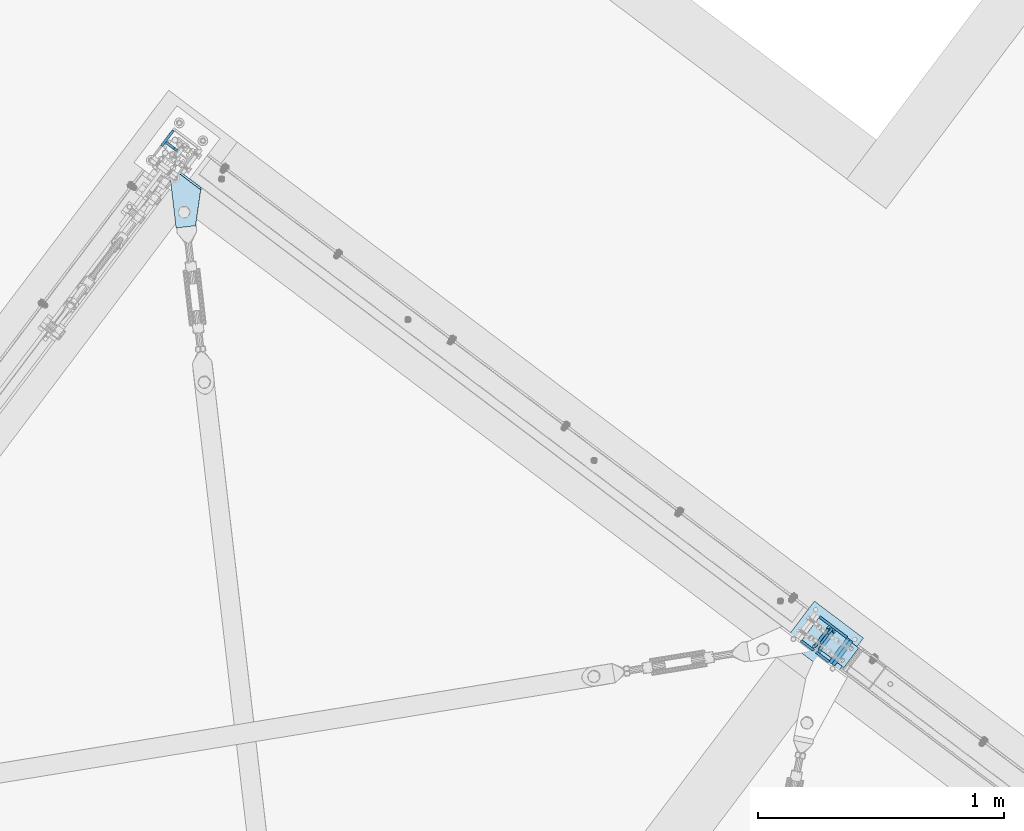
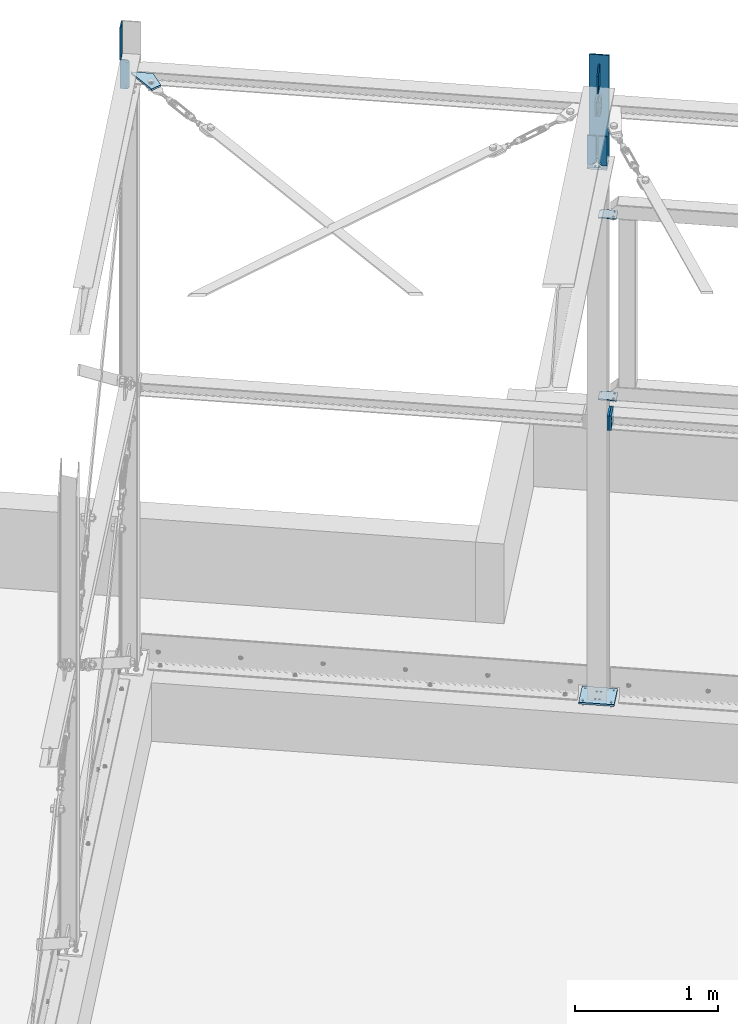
# One storey, part 71 of 476: 15 plates, 57 openings.
"""IFC2X3 building model written with IfcOpenShell, lengths in millimetres."""

from ifc_helpers import new_model, entity, si_unit, converted_unit, point, frame, frame_2d, origin, origin_with_axes, origin_2d_with_axis, place, context, project, spatial, polyline, circle_curve, line_curve, trimmed, segment, composite_curve, circle, outline, extrude, material, layer, layer_set, element, save


model = new_model("IFC2X3")

# Units and contexts
model_context = context("Model", 3, precision=1e-09, world=origin_with_axes())
ifc_project = project(units=[si_unit("LENGTHUNIT", "METRE", prefix="MILLI"), si_unit("AREAUNIT", "SQUARE_METRE"), si_unit("VOLUMEUNIT", "CUBIC_METRE"), converted_unit("PLANEANGLEUNIT", "DEGREE", entity("IfcPlaneAngleMeasure", 0.01745329), si_unit("PLANEANGLEUNIT", "RADIAN"), dimensions=[0, 0, 0, 0, 0, 0, 0])], contexts=[model_context])

# Site, building, storey
site_placement = place(None, origin_with_axes())
site = spatial("IfcSite", under=ifc_project, at=site_placement, Name="mKR Teilneubau & Sanierung BA1 - Ostfildern", CompositionType="ELEMENT")
building_placement = place(site_placement, origin_with_axes())
building = spatial("IfcBuilding", under=site, at=building_placement, Name="Struktur 1", CompositionType="ELEMENT")
storey_placement = place(building_placement, origin_with_axes())
storey = spatial("IfcBuildingStorey", under=building, at=storey_placement, Name="Default Storey", CompositionType="ELEMENT", Elevation=0.0)

# Plate, openings
ifc_material = material(Name="S235JR")
ifc_layer_1 = layer(ifc_material, 15.0)
ifc_layer_set_1 = layer_set([ifc_layer_1], Name="S235JR")
plate_1_placement = place(None, frame((8540.695136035, 10985.191363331, 5627.058533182), z_axis=(-0.018098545, -0.02396011, 0.999549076), x_axis=(-0.602462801, -0.797581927, -0.030027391)))
plate_1 = element("IfcPlate", 1, at=plate_1_placement, inside=storey, material=ifc_layer_set_1, Name="-", ObjectType="-", context=model_context, shape_type="SweptSolid", body=[
    extrude(outline(polyline([(0.0, 0.0), (16.761939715, 0.0), (192.636873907, 167.974256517), (137.382787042, 225.827096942), (1.572e-05, 149.999963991), (0.0, 0.0)])), origin_with_axes(), (0.0, 0.0, -1.0), 15.0),
])
opening_1_placement = place(plate_1_placement, frame((0.0, -0.000999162, 0.0), z_axis=(1.05e-07, 1.0, 0.0), x_axis=(1.0, -1.05e-07, 0.0)))
element("IfcOpeningElement", 2, at=opening_1_placement, cuts=plate_1, ObjectType="Opening", context=model_context, shape_type="SweptSolid", body=[
    extrude(outline(polyline([(0.0, 0.0), (8.0, 0.0), (0.0, 8.0), (0.0, 0.0)])), origin(), (0.0, 0.0, 1.0), 154.437489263),
])
opening_2_placement = place(plate_1_placement, frame((121.62025065, 155.460173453, -15.499862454), z_axis=(-7.613e-06, -7.271e-06, 1.0), x_axis=(-0.723163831, -0.690676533, -1.0527e-05)))
element("IfcOpeningElement", 3, at=opening_2_placement, cuts=plate_1, ObjectType="Opening", context=model_context, shape_type="SweptSolid", body=[
    extrude(circle(Radius=14.501, at=origin_2d_with_axis()), origin(), (0.0, 0.0, 1.0), 16.000000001),
])

ifc_layer_2 = layer(ifc_material, 10.0)
ifc_layer_set_2 = layer_set([ifc_layer_2], Name="S235JR")
plate_2_placement = place(None, frame((11185.904342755, 9034.953563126, 5888.279672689), z_axis=(-0.797941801, 0.602734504, 0.0), x_axis=(0.602734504, 0.797941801, 0.0)))
plate_2 = element("IfcPlate", 4, at=plate_2_placement, inside=storey, material=ifc_layer_set_2, Name="-", ObjectType="-", context=model_context, shape_type="SweptSolid", body=[
    extrude(outline(polyline([(0.0, 0.0), (80.0, 0.0), (80.0, 197.595559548), (0.0, 200.0), (0.0, 0.0)])), origin_with_axes(), (0.0, 0.0, 1.0), 10.0),
])
opening_3_placement = place(plate_2_placement, frame((0.0, 0.0, -0.01), z_axis=(0.0, 0.0, 1.0), x_axis=(1.0, 0.0, 0.0)))
element("IfcOpeningElement", 5, at=opening_3_placement, cuts=plate_2, ObjectType="Opening", context=model_context, shape_type="SweptSolid", body=[
    extrude(outline(polyline([(0.0, 0.0), (50.0, 0.0), (0.0, 50.0), (0.0, 0.0)])), origin(), (0.0, 0.0, 1.0), 10.02),
])
opening_4_placement = place(plate_2_placement, frame((0.0, 0.0, -0.01), z_axis=(0.0, 0.0, 1.0), x_axis=(1.0, 0.0, 0.0)))
element("IfcOpeningElement", 6, at=opening_4_placement, cuts=plate_2, ObjectType="Opening", context=model_context, shape_type="SweptSolid", body=[
    extrude(outline(polyline([(80.0, 197.595559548), (60.009027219, 198.196398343), (80.0, 177.595559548), (80.0, 197.595559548)])), origin(), (0.0, 0.0, 1.0), 10.02),
])

# Plate, opening
plate_3_placement = place(None, frame((8503.621791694, 11061.044014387, 5888.279613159), z_axis=(-0.797941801, 0.602734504, 0.0), x_axis=(0.602734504, 0.797941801, 0.0)))
plate_3 = element("IfcPlate", 7, at=plate_3_placement, inside=storey, material=ifc_layer_set_2, Name="-", ObjectType="-", context=model_context, shape_type="SweptSolid", body=[
    extrude(outline(polyline([(0.0, -77.431397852), (80.0, -77.431397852), (80.0, 197.595559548), (0.0, 200.0), (0.0, -77.431397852)])), origin_with_axes(), (0.0, 0.0, 1.0), 10.0),
])
opening_5_placement = place(plate_3_placement, frame((0.0, 0.0, -0.01), z_axis=(0.0, 0.0, 1.0), x_axis=(1.0, 0.0, 0.0)))
element("IfcOpeningElement", 8, at=opening_5_placement, cuts=plate_3, ObjectType="Opening", context=model_context, shape_type="SweptSolid", body=[
    extrude(outline(polyline([(80.0, 197.595559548), (60.009027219, 198.196398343), (80.0, 177.595559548), (80.0, 197.595559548)])), origin(), (0.0, 0.0, 1.0), 10.02),
])

# Plate, openings
plate_4_placement = place(None, frame((11340.847606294, 9018.1749707, 3100.0), z_axis=(0.0, 0.0, 1.0), x_axis=(-0.797941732, 0.602734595, 0.0)))
plate_4 = element("IfcPlate", 9, at=plate_4_placement, inside=storey, material=ifc_layer_set_2, Name="-", ObjectType="-", context=model_context, shape_type="SweptSolid", body=[
    extrude(outline(polyline([(5.0, 0.0), (135.0, 0.0), (135.0, 100.0), (5.0, 100.0), (5.0, 0.0)])), origin_with_axes(), (0.0, 0.0, -1.0), 10.0),
])
opening_6_placement = place(plate_4_placement, frame((135.0, 0.0, 0.01), z_axis=(0.0, 0.0, 1.0), x_axis=(0.0, 1.0, 0.0)))
element("IfcOpeningElement", 10, at=opening_6_placement, cuts=plate_4, ObjectType="Opening", context=model_context, shape_type="SweptSolid", body=[
    extrude(outline(composite_curve([segment(trimmed(line_curve((0.0, 0.0), (1.0, 0.0), 13.0), [point((0.0, 0.0))], [point((13.0, 0.0))], True, "CARTESIAN"), True, "CONTINUOUS"), segment(trimmed(circle_curve(frame_2d((13.0, 13.0), x_axis=(-1.0, 0.0)), 13.0), [point((13.0, 0.0))], [point((0.0, 13.0))], False, "CARTESIAN"), True, "CONTINUOUS"), segment(trimmed(line_curve((0.0, 13.0), (0.0, -1.0), 13.0), [point((0.0, 13.0))], [point((0.0, 0.0))], True, "CARTESIAN"), True, "CONTINUOUS")], self_intersect=False)), origin(), (0.0, 0.0, -1.0), 10.02),
])
opening_7_placement = place(plate_4_placement, frame((124.0, 15.501, 0.5), z_axis=(0.0, 0.0, 1.0), x_axis=(1.0, 0.0, 0.0)))
element("IfcOpeningElement", 11, at=opening_7_placement, cuts=plate_4, ObjectType="Opening", context=model_context, shape_type="SweptSolid", body=[
    extrude(circle(Radius=5.001, at=frame_2d((0.0, -5.001), x_axis=(1.0, 0.0))), origin(), (0.0, 0.0, -1.0), 11.0),
])
opening_8_placement = place(plate_4_placement, frame((35.751, 80.0, -10.5), z_axis=(0.0, 0.0, -1.0), x_axis=(-1.0, 0.0, 0.0)))
element("IfcOpeningElement", 12, at=opening_8_placement, cuts=plate_4, ObjectType="Opening", context=model_context, shape_type="SweptSolid", body=[
    extrude(circle(Radius=7.001, at=frame_2d((7.001, 0.0), x_axis=(1.0, 0.0))), origin(), (0.0, 0.0, -1.0), 11.0),
])
opening_9_placement = place(plate_4_placement, frame((35.751, 20.0, -10.5), z_axis=(0.0, 0.0, -1.0), x_axis=(-1.0, 0.0, 0.0)))
element("IfcOpeningElement", 13, at=opening_9_placement, cuts=plate_4, ObjectType="Opening", context=model_context, shape_type="SweptSolid", body=[
    extrude(circle(Radius=7.001, at=frame_2d((7.001, 0.0), x_axis=(1.0, 0.0))), origin(), (0.0, 0.0, -1.0), 11.0),
])

plate_5_placement = place(None, frame((11340.847606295, 9018.174970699, 4650.0), z_axis=(0.0, 0.0, 1.0), x_axis=(-0.797941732, 0.602734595, 0.0)))
plate_5 = element("IfcPlate", 14, at=plate_5_placement, inside=storey, material=ifc_layer_set_2, Name="-", ObjectType="-", context=model_context, shape_type="SweptSolid", body=[
    extrude(outline(polyline([(5.0, 0.0), (135.0, 0.0), (135.0, 100.0), (5.0, 100.0), (5.0, 0.0)])), origin_with_axes(), (0.0, 0.0, -1.0), 10.0),
])
opening_10_placement = place(plate_5_placement, frame((135.0, 0.0, 0.01), z_axis=(0.0, 0.0, 1.0), x_axis=(0.0, 1.0, 0.0)))
element("IfcOpeningElement", 15, at=opening_10_placement, cuts=plate_5, ObjectType="Opening", context=model_context, shape_type="SweptSolid", body=[
    extrude(outline(composite_curve([segment(trimmed(line_curve((0.0, 0.0), (1.0, 0.0), 13.0), [point((0.0, 0.0))], [point((13.0, 0.0))], True, "CARTESIAN"), True, "CONTINUOUS"), segment(trimmed(circle_curve(frame_2d((13.0, 13.0), x_axis=(-1.0, 0.0)), 13.0), [point((13.0, 0.0))], [point((0.0, 13.0))], False, "CARTESIAN"), True, "CONTINUOUS"), segment(trimmed(line_curve((0.0, 13.0), (0.0, -1.0), 13.0), [point((0.0, 13.0))], [point((0.0, 0.0))], True, "CARTESIAN"), True, "CONTINUOUS")], self_intersect=False)), origin(), (0.0, 0.0, -1.0), 10.02),
])
opening_11_placement = place(plate_5_placement, frame((124.0, 15.501, 0.5), z_axis=(0.0, 0.0, 1.0), x_axis=(1.0, 0.0, 0.0)))
element("IfcOpeningElement", 16, at=opening_11_placement, cuts=plate_5, ObjectType="Opening", context=model_context, shape_type="SweptSolid", body=[
    extrude(circle(Radius=5.001, at=frame_2d((0.0, -5.001), x_axis=(1.0, 0.0))), origin(), (0.0, 0.0, -1.0), 11.0),
])
opening_12_placement = place(plate_5_placement, frame((35.751, 80.0, -10.5), z_axis=(0.0, 0.0, -1.0), x_axis=(-1.0, 0.0, 0.0)))
element("IfcOpeningElement", 17, at=opening_12_placement, cuts=plate_5, ObjectType="Opening", context=model_context, shape_type="SweptSolid", body=[
    extrude(circle(Radius=7.001, at=frame_2d((7.001, 0.0), x_axis=(1.0, 0.0))), origin(), (0.0, 0.0, -1.0), 11.0),
])
opening_13_placement = place(plate_5_placement, frame((35.751, 20.0, -10.5), z_axis=(0.0, 0.0, -1.0), x_axis=(-1.0, 0.0, 0.0)))
element("IfcOpeningElement", 18, at=opening_13_placement, cuts=plate_5, ObjectType="Opening", context=model_context, shape_type="SweptSolid", body=[
    extrude(circle(Radius=7.001, at=frame_2d((7.001, 0.0), x_axis=(1.0, 0.0))), origin(), (0.0, 0.0, -1.0), 11.0),
])

plate_6_placement = place(None, frame((8559.715355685, 11041.233267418, 5430.731507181), z_axis=(0.602734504, 0.797941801, 0.0), x_axis=(-0.797941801, 0.602734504, 0.0)))
plate_6 = element("IfcPlate", 19, at=plate_6_placement, inside=storey, material=ifc_layer_set_2, Name="Stiffener#2", ObjectType="Stiffener#2", context=model_context, shape_type="SweptSolid", body=[
    extrude(outline(polyline([(0.0, 0.0), (65.0, 0.0), (65.0, 246.410800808), (0.0, 246.410800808), (0.0, 0.0)])), origin_with_axes(), (0.0, 0.0, 1.0), 10.0),
])
opening_14_placement = place(plate_6_placement, frame((0.0, 0.0, -0.01), z_axis=(0.0, 0.0, 1.0), x_axis=(1.0, 0.0, 0.0)))
element("IfcOpeningElement", 20, at=opening_14_placement, cuts=plate_6, ObjectType="Opening", context=model_context, shape_type="SweptSolid", body=[
    extrude(outline(composite_curve([segment(trimmed(line_curve((0.0, 246.410800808), (0.0, -1.0), 15.0), [point((0.0, 246.410800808))], [point((0.0, 231.410800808))], True, "CARTESIAN"), True, "CONTINUOUS"), segment(trimmed(circle_curve(frame_2d((15.0, 231.410800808), x_axis=(-1.0, 0.0)), 15.0), [point((0.0, 231.410800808))], [point((15.0, 246.410800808))], False, "CARTESIAN"), True, "CONTINUOUS"), segment(trimmed(line_curve((15.0, 246.410800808), (-1.0, 0.0), 15.0), [point((15.0, 246.410800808))], [point((0.0, 246.410800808))], True, "CARTESIAN"), True, "CONTINUOUS")], self_intersect=False)), origin(), (0.0, 0.0, 1.0), 10.02),
])
opening_15_placement = place(plate_6_placement, frame((0.0, 0.0, -0.01), z_axis=(0.0, 0.0, 1.0), x_axis=(1.0, 0.0, 0.0)))
element("IfcOpeningElement", 21, at=opening_15_placement, cuts=plate_6, ObjectType="Opening", context=model_context, shape_type="SweptSolid", body=[
    extrude(outline(composite_curve([segment(trimmed(line_curve((0.0, 0.0), (1.0, 0.0), 15.0), [point((0.0, 0.0))], [point((15.0, 0.0))], True, "CARTESIAN"), True, "CONTINUOUS"), segment(trimmed(circle_curve(frame_2d((15.0, 15.0), x_axis=(-1.0, 0.0)), 15.0), [point((15.0, 0.0))], [point((0.0, 15.0))], False, "CARTESIAN"), True, "CONTINUOUS"), segment(trimmed(line_curve((0.0, 15.0), (0.0, -1.0), 15.0), [point((0.0, 15.0))], [point((0.0, 0.0))], True, "CARTESIAN"), True, "CONTINUOUS")], self_intersect=False)), origin(), (0.0, 0.0, 1.0), 10.02),
])
opening_16_placement = place(plate_6_placement, frame((15.0, 13.499322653, -0.5), z_axis=(0.0, 0.0, 1.0), x_axis=(0.0, -1.0, 0.0)))
element("IfcOpeningElement", 22, at=opening_16_placement, cuts=plate_6, ObjectType="Opening", context=model_context, shape_type="SweptSolid", body=[
    extrude(circle(Radius=7.001, at=origin_2d_with_axis()), origin(), (0.0, 0.0, 1.0), 11.0),
])
opening_17_placement = place(plate_6_placement, frame((15.0, 233.212033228, -0.5), z_axis=(0.0, 0.0, 1.0), x_axis=(0.0, -1.0, 0.0)))
element("IfcOpeningElement", 23, at=opening_17_placement, cuts=plate_6, ObjectType="Opening", context=model_context, shape_type="SweptSolid", body=[
    extrude(circle(Radius=7.001, at=origin_2d_with_axis()), origin(), (0.0, 0.0, 1.0), 11.0),
])

plate_7_placement = place(None, frame((11156.610210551, 9211.855642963, 540.0), z_axis=(0.0, 0.0, -1.0), x_axis=(0.797941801, -0.602734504, 0.0)))
plate_7 = element("IfcPlate", 24, at=plate_7_placement, inside=storey, material=ifc_layer_set_1, Name="Baseplate", ObjectType="Baseplate", context=model_context, shape_type="SweptSolid", body=[
    extrude(outline(polyline([(0.0, 0.0), (250.0, 0.0), (250.0, 200.0), (0.0, 200.0), (0.0, 0.0)])), origin_with_axes(), (0.0, 0.0, 1.0), 15.0),
])
opening_18_placement = place(plate_7_placement, frame((139.75, 146.0, 15.5), z_axis=(0.0, 0.0, -1.0), x_axis=(0.0, 1.0, 0.0)))
element("IfcOpeningElement", 25, at=opening_18_placement, cuts=plate_7, ObjectType="Opening", context=model_context, shape_type="SweptSolid", body=[
    extrude(circle(Radius=6.001, at=origin_2d_with_axis()), origin(), (0.0, 0.0, 1.0), 16.0),
])
opening_19_placement = place(plate_7_placement, frame((139.75, 54.0, 15.5), z_axis=(0.0, 0.0, -1.0), x_axis=(0.0, 1.0, 0.0)))
element("IfcOpeningElement", 26, at=opening_19_placement, cuts=plate_7, ObjectType="Opening", context=model_context, shape_type="SweptSolid", body=[
    extrude(circle(Radius=6.001, at=origin_2d_with_axis()), origin(), (0.0, 0.0, 1.0), 16.0),
])
opening_20_placement = place(plate_7_placement, frame((110.25, 54.0, 15.5), z_axis=(0.0, 0.0, -1.0), x_axis=(0.0, 1.0, 0.0)))
element("IfcOpeningElement", 27, at=opening_20_placement, cuts=plate_7, ObjectType="Opening", context=model_context, shape_type="SweptSolid", body=[
    extrude(circle(Radius=6.001, at=origin_2d_with_axis()), origin(), (0.0, 0.0, 1.0), 16.0),
])
opening_21_placement = place(plate_7_placement, frame((110.25, 146.0, 15.5), z_axis=(0.0, 0.0, -1.0), x_axis=(0.0, 1.0, 0.0)))
element("IfcOpeningElement", 28, at=opening_21_placement, cuts=plate_7, ObjectType="Opening", context=model_context, shape_type="SweptSolid", body=[
    extrude(circle(Radius=6.001, at=origin_2d_with_axis()), origin(), (0.0, 0.0, 1.0), 16.0),
])
opening_22_placement = place(plate_7_placement, frame((125.0, 100.0, 15.5), z_axis=(0.0, 0.0, -1.0), x_axis=(1.0, 0.0, 0.0)))
element("IfcOpeningElement", 29, at=opening_22_placement, cuts=plate_7, ObjectType="Opening", context=model_context, shape_type="SweptSolid", body=[
    extrude(circle(Radius=6.001, at=frame_2d((100.0, 75.0), x_axis=(1.0, 0.0))), origin(), (0.0, 0.0, 1.0), 16.0),
])
opening_23_placement = place(plate_7_placement, frame((125.0, 100.0, 15.5), z_axis=(0.0, 0.0, -1.0), x_axis=(1.0, 0.0, 0.0)))
element("IfcOpeningElement", 30, at=opening_23_placement, cuts=plate_7, ObjectType="Opening", context=model_context, shape_type="SweptSolid", body=[
    extrude(circle(Radius=6.001, at=frame_2d((-100.0, 75.0), x_axis=(1.0, 0.0))), origin(), (0.0, 0.0, 1.0), 16.0),
])
opening_24_placement = place(plate_7_placement, frame((125.0, 100.0, 15.5), z_axis=(0.0, 0.0, -1.0), x_axis=(1.0, 0.0, 0.0)))
element("IfcOpeningElement", 31, at=opening_24_placement, cuts=plate_7, ObjectType="Opening", context=model_context, shape_type="SweptSolid", body=[
    extrude(circle(Radius=6.001, at=frame_2d((100.0, -75.0), x_axis=(1.0, 0.0))), origin(), (0.0, 0.0, 1.0), 16.0),
])
opening_25_placement = place(plate_7_placement, frame((125.0, 100.0, 15.5), z_axis=(0.0, 0.0, -1.0), x_axis=(1.0, 0.0, 0.0)))
element("IfcOpeningElement", 32, at=opening_25_placement, cuts=plate_7, ObjectType="Opening", context=model_context, shape_type="SweptSolid", body=[
    extrude(circle(Radius=6.001, at=frame_2d((-100.0, -75.0), x_axis=(1.0, 0.0))), origin(), (0.0, 0.0, 1.0), 16.0),
])

plate_8_placement = place(None, frame((11275.873467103, 8996.44593706, 2912.000000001), z_axis=(-0.797941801, 0.602734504, 0.0), x_axis=(0.0, 0.0, -1.0)))
plate_8 = element("IfcPlate", 33, at=plate_8_placement, inside=storey, material=ifc_layer_set_1, Name="Endplate#1", ObjectType="Endplate#1", context=model_context, shape_type="SweptSolid", body=[
    extrude(outline(polyline([(-62.0, -62.0), (62.0, -62.0), (62.0, 62.0), (-62.0, 62.0), (-62.0, -62.0)])), origin_with_axes(), (0.0, 0.0, 1.0), 15.0),
])
opening_26_placement = place(plate_8_placement, frame((37.0, 14.5, 15.5), z_axis=(0.0, 0.0, -1.0), x_axis=(-1.0, 0.0, 0.0)))
element("IfcOpeningElement", 34, at=opening_26_placement, cuts=plate_8, ObjectType="Opening", context=model_context, shape_type="SweptSolid", body=[
    extrude(circle(Radius=6.001, at=origin_2d_with_axis()), origin(), (0.0, 0.0, 1.0), 16.0),
])
opening_27_placement = place(plate_8_placement, frame((-37.0, 14.5, 15.5), z_axis=(0.0, 0.0, -1.0), x_axis=(-1.0, 0.0, 0.0)))
element("IfcOpeningElement", 35, at=opening_27_placement, cuts=plate_8, ObjectType="Opening", context=model_context, shape_type="SweptSolid", body=[
    extrude(circle(Radius=6.001, at=origin_2d_with_axis()), origin(), (0.0, 0.0, 1.0), 16.0),
])
opening_28_placement = place(plate_8_placement, frame((-37.0, -14.5, 15.5), z_axis=(0.0, 0.0, -1.0), x_axis=(-1.0, 0.0, 0.0)))
element("IfcOpeningElement", 36, at=opening_28_placement, cuts=plate_8, ObjectType="Opening", context=model_context, shape_type="SweptSolid", body=[
    extrude(circle(Radius=6.001, at=origin_2d_with_axis()), origin(), (0.0, 0.0, 1.0), 16.0),
])
opening_29_placement = place(plate_8_placement, frame((37.0, -14.5, 15.5), z_axis=(0.0, 0.0, -1.0), x_axis=(-1.0, 0.0, 0.0)))
element("IfcOpeningElement", 37, at=opening_29_placement, cuts=plate_8, ObjectType="Opening", context=model_context, shape_type="SweptSolid", body=[
    extrude(circle(Radius=6.001, at=origin_2d_with_axis()), origin(), (0.0, 0.0, 1.0), 16.0),
])
opening_30_placement = place(plate_8_placement, frame((0.0, 30.0, 15.5), z_axis=(0.0, 0.0, -1.0), x_axis=(-1.0, 0.0, 0.0)))
element("IfcOpeningElement", 38, at=opening_30_placement, cuts=plate_8, ObjectType="Opening", context=model_context, shape_type="SweptSolid", body=[
    extrude(circle(Radius=7.001, at=origin_2d_with_axis()), origin(), (0.0, 0.0, 1.0), 16.0),
])
opening_31_placement = place(plate_8_placement, frame((0.0, -30.0, 15.5), z_axis=(0.0, 0.0, -1.0), x_axis=(0.0, -1.0, 0.0)))
element("IfcOpeningElement", 39, at=opening_31_placement, cuts=plate_8, ObjectType="Opening", context=model_context, shape_type="SweptSolid", body=[
    extrude(circle(Radius=7.001, at=origin_2d_with_axis()), origin(), (0.0, 0.0, 1.0), 16.0),
])

plate_9_placement = place(None, frame((11251.935411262, 9014.528234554, 2912.000000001), z_axis=(0.797941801, -0.602734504, 0.0), x_axis=(-0.602734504, -0.797941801, 0.0)))
plate_9 = element("IfcPlate", 40, at=plate_9_placement, inside=storey, material=ifc_layer_set_1, Name="T-plate", ObjectType="T-plate", context=model_context, shape_type="SweptSolid", body=[
    extrude(outline(polyline([(-62.0, -62.0), (62.0, -62.0), (62.0, 62.0), (-62.0, 62.0), (-62.0, -62.0)])), origin_with_axes(), (0.0, 0.0, 1.0), 15.0),
])
opening_32_placement = place(plate_9_placement, frame((-29.999671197, 0.0, -0.5), z_axis=(0.0, 0.0, 1.0), x_axis=(-1.0, 0.0, 0.0)))
element("IfcOpeningElement", 41, at=opening_32_placement, cuts=plate_9, ObjectType="Opening", context=model_context, shape_type="SweptSolid", body=[
    extrude(circle(Radius=7.001, at=origin_2d_with_axis()), origin(), (0.0, 0.0, 1.0), 16.0),
])
opening_33_placement = place(plate_9_placement, frame((30.000328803, 0.0, -0.5), z_axis=(0.0, 0.0, 1.0), x_axis=(0.0, -1.0, 0.0)))
element("IfcOpeningElement", 42, at=opening_33_placement, cuts=plate_9, ObjectType="Opening", context=model_context, shape_type="SweptSolid", body=[
    extrude(circle(Radius=7.001, at=origin_2d_with_axis()), origin(), (0.0, 0.0, 1.0), 16.0),
])

# Plate
plate_10_placement = place(None, frame((11285.989910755, 9059.611946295, 5095.440131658), z_axis=(0.602734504, 0.797941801, 0.0), x_axis=(-0.797941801, 0.602734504, 0.0)))
element("IfcPlate", 43, at=plate_10_placement, inside=storey, material=ifc_layer_set_2, Name="Coverplate", ObjectType="Coverplate", context=model_context, shape_type="SweptSolid", body=[
    extrude(outline(polyline([(0.0, 0.0), (140.0, 0.0), (140.0, 870.270938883), (0.0, 870.270938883), (0.0, 0.0)])), origin_with_axes(), (0.0, 0.0, 1.0), 10.0),
])

# Plate, openings
ifc_layer_3 = layer(ifc_material, 20.0)
ifc_layer_set_3 = layer_set([ifc_layer_3], Name="S235JR")
plate_11_placement = place(None, frame((11289.00494353, 9063.603456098, 5070.581445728), z_axis=(-0.018107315, -0.023971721, 0.999548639), x_axis=(-0.797941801, 0.602734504, 0.0)))
plate_11 = element("IfcPlate", 44, at=plate_11_placement, inside=storey, material=ifc_layer_set_3, Name="Endplate", ObjectType="Endplate", context=model_context, shape_type="SweptSolid", body=[
    extrude(outline(polyline([(0.0, 0.0), (140.0, 0.0), (140.0, 123.060058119), (0.0, 123.060058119), (0.0, 0.0)])), origin_with_axes(), (0.0, 0.0, 1.0), 20.0),
])
opening_34_placement = place(plate_11_placement, frame((55.25, 107.556219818, 20.5), z_axis=(0.0, 0.0, -1.0), x_axis=(0.0, -1.0, 0.0)))
element("IfcOpeningElement", 45, at=opening_34_placement, cuts=plate_11, ObjectType="Opening", context=model_context, shape_type="SweptSolid", body=[
    extrude(circle(Radius=6.001, at=origin_2d_with_axis()), origin(), (0.0, 0.0, 1.0), 21.0),
])
opening_35_placement = place(plate_11_placement, frame((55.25, 15.503838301, 20.5), z_axis=(0.0, 0.0, -1.0), x_axis=(0.0, -1.0, 0.0)))
element("IfcOpeningElement", 46, at=opening_35_placement, cuts=plate_11, ObjectType="Opening", context=model_context, shape_type="SweptSolid", body=[
    extrude(circle(Radius=6.001, at=origin_2d_with_axis()), origin(), (0.0, 0.0, 1.0), 21.0),
])
opening_36_placement = place(plate_11_placement, frame((84.75, 15.503838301, 20.5), z_axis=(0.0, 0.0, -1.0), x_axis=(0.0, -1.0, 0.0)))
element("IfcOpeningElement", 47, at=opening_36_placement, cuts=plate_11, ObjectType="Opening", context=model_context, shape_type="SweptSolid", body=[
    extrude(circle(Radius=6.001, at=origin_2d_with_axis()), origin(), (0.0, 0.0, 1.0), 21.0),
])
opening_37_placement = place(plate_11_placement, frame((84.75, 107.556219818, 20.5), z_axis=(0.0, 0.0, -1.0), x_axis=(0.0, -1.0, 0.0)))
element("IfcOpeningElement", 48, at=opening_37_placement, cuts=plate_11, ObjectType="Opening", context=model_context, shape_type="SweptSolid", body=[
    extrude(circle(Radius=6.001, at=origin_2d_with_axis()), origin(), (0.0, 0.0, 1.0), 21.0),
])
opening_38_placement = place(plate_11_placement, frame((17.999, 89.03, -0.5), z_axis=(0.0, 0.0, -1.0), x_axis=(-1.0, 0.0, 0.0)))
element("IfcOpeningElement", 49, at=opening_38_placement, cuts=plate_11, ObjectType="Opening", context=model_context, shape_type="SweptSolid", body=[
    extrude(circle(Radius=7.001, at=frame_2d((-7.001, 0.0), x_axis=(1.0, 0.0))), origin(), (0.0, 0.0, -1.0), 21.0),
])
opening_39_placement = place(plate_11_placement, frame((107.999, 34.03, -0.5), z_axis=(0.0, 0.0, -1.0), x_axis=(-1.0, 0.0, 0.0)))
element("IfcOpeningElement", 50, at=opening_39_placement, cuts=plate_11, ObjectType="Opening", context=model_context, shape_type="SweptSolid", body=[
    extrude(circle(Radius=7.001, at=frame_2d((-7.001, 0.0), x_axis=(1.0, 0.0))), origin(), (0.0, 0.0, -1.0), 21.0),
])
opening_40_placement = place(plate_11_placement, frame((107.999, 89.03, -0.5), z_axis=(0.0, 0.0, -1.0), x_axis=(-1.0, 0.0, 0.0)))
element("IfcOpeningElement", 51, at=opening_40_placement, cuts=plate_11, ObjectType="Opening", context=model_context, shape_type="SweptSolid", body=[
    extrude(circle(Radius=7.001, at=frame_2d((-7.001, 0.0), x_axis=(1.0, 0.0))), origin(), (0.0, 0.0, -1.0), 21.0),
])
opening_41_placement = place(plate_11_placement, frame((17.999, 34.03, -0.5), z_axis=(0.0, 0.0, -1.0), x_axis=(-1.0, 0.0, 0.0)))
element("IfcOpeningElement", 52, at=opening_41_placement, cuts=plate_11, ObjectType="Opening", context=model_context, shape_type="SweptSolid", body=[
    extrude(circle(Radius=7.001, at=frame_2d((-7.001, 0.0), x_axis=(1.0, 0.0))), origin(), (0.0, 0.0, -1.0), 21.0),
])

plate_12_placement = place(None, frame((11105.371117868, 9054.430087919, 5107.553116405), z_axis=(-0.602734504, -0.797941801, 0.0), x_axis=(0.797941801, -0.602734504, 0.0)))
plate_12 = element("IfcPlate", 53, at=plate_12_placement, inside=storey, material=ifc_layer_set_2, Name="Stiffener#2", ObjectType="Stiffener#2", context=model_context, shape_type="SweptSolid", body=[
    extrude(outline(polyline([(0.0, 0.0), (65.0, 0.0), (65.0, 250.0), (0.0, 250.0), (0.0, 0.0)])), origin_with_axes(), (0.0, 0.0, 1.0), 10.0),
])
opening_42_placement = place(plate_12_placement, frame((0.0, 0.0, -0.01), z_axis=(0.0, 0.0, 1.0), x_axis=(1.0, 0.0, 0.0)))
element("IfcOpeningElement", 54, at=opening_42_placement, cuts=plate_12, ObjectType="Opening", context=model_context, shape_type="SweptSolid", body=[
    extrude(outline(composite_curve([segment(trimmed(line_curve((65.0, 0.0), (0.0, 1.0), 25.0), [point((65.0, 0.0))], [point((65.0, 25.0))], True, "CARTESIAN"), True, "CONTINUOUS"), segment(trimmed(circle_curve(frame_2d((40.0, 25.0), x_axis=(-1.0, 0.0)), 25.0), [point((65.0, 25.0))], [point((40.0, 0.0))], False, "CARTESIAN"), True, "CONTINUOUS"), segment(trimmed(line_curve((40.0, 0.0), (1.0, 0.0), 25.0), [point((40.0, 0.0))], [point((65.0, 0.0))], True, "CARTESIAN"), True, "CONTINUOUS")], self_intersect=False)), origin(), (0.0, 0.0, 1.0), 10.02),
])
opening_43_placement = place(plate_12_placement, frame((41.0, 22.198767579, -0.5), z_axis=(0.0, 0.0, 1.0), x_axis=(0.0, 1.0, 0.0)))
element("IfcOpeningElement", 55, at=opening_43_placement, cuts=plate_12, ObjectType="Opening", context=model_context, shape_type="SweptSolid", body=[
    extrude(circle(Radius=7.001, at=frame_2d((-7.0, -7.0), x_axis=(1.0, 0.0))), origin(), (0.0, 0.0, 1.0), 11.0),
])

plate_13_placement = place(None, frame((11166.812636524, 9008.019531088, 5107.553116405), z_axis=(-0.602734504, -0.797941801, 0.0), x_axis=(0.797941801, -0.602734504, 0.0)))
plate_13 = element("IfcPlate", 56, at=plate_13_placement, inside=storey, material=ifc_layer_set_2, Name="Stiffener#2", ObjectType="Stiffener#2", context=model_context, shape_type="SweptSolid", body=[
    extrude(outline(polyline([(0.0, 0.0), (65.0, 0.0), (65.0, 250.0), (0.0, 250.0), (0.0, 0.0)])), origin_with_axes(), (0.0, 0.0, 1.0), 10.0),
])
opening_44_placement = place(plate_13_placement, frame((0.0, 0.0, -0.01), z_axis=(0.0, 0.0, 1.0), x_axis=(1.0, 0.0, 0.0)))
element("IfcOpeningElement", 57, at=opening_44_placement, cuts=plate_13, ObjectType="Opening", context=model_context, shape_type="SweptSolid", body=[
    extrude(outline(composite_curve([segment(trimmed(line_curve((0.0, 0.0), (1.0, 0.0), 25.0), [point((0.0, 0.0))], [point((25.0, 0.0))], True, "CARTESIAN"), True, "CONTINUOUS"), segment(trimmed(circle_curve(frame_2d((25.0, 25.0), x_axis=(-1.0, 0.0)), 25.0), [point((25.0, 0.0))], [point((0.0, 25.0))], False, "CARTESIAN"), True, "CONTINUOUS"), segment(trimmed(line_curve((0.0, 25.0), (0.0, -1.0), 25.0), [point((0.0, 25.0))], [point((0.0, 0.0))], True, "CARTESIAN"), True, "CONTINUOUS")], self_intersect=False)), origin(), (0.0, 0.0, 1.0), 10.02),
])
opening_45_placement = place(plate_13_placement, frame((24.0, 22.198767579, -0.5), z_axis=(0.0, 0.0, 1.0), x_axis=(0.0, 1.0, 0.0)))
element("IfcOpeningElement", 58, at=opening_45_placement, cuts=plate_13, ObjectType="Opening", context=model_context, shape_type="SweptSolid", body=[
    extrude(circle(Radius=7.001, at=frame_2d((-7.0, 7.0), x_axis=(1.0, 0.0))), origin(), (0.0, 0.0, 1.0), 11.0),
])

ifc_layer_4 = layer(ifc_material, 12.0)
ifc_layer_set_4 = layer_set([ifc_layer_4], Name="S235JR")
plate_14_placement = place(None, frame((11226.855100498, 9087.507915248, 5635.311085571), z_axis=(0.797941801, -0.602734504, 0.0), x_axis=(-0.602462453, -0.797581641, -0.030041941)))
plate_14 = element("IfcPlate", 59, at=plate_14_placement, inside=storey, material=ifc_layer_set_4, Name="Endplate", ObjectType="Endplate", context=model_context, shape_type="SweptSolid", body=[
    extrude(outline(polyline([(0.0, 0.0), (90.0, 0.0), (90.0, 124.0), (0.0, 124.0), (0.0, 0.0)])), origin_with_axes(), (0.0, 0.0, 1.0), 12.0),
])
opening_46_placement = place(plate_14_placement, frame((70.0, 62.0, -0.5), z_axis=(0.0, 0.0, 1.0), x_axis=(0.0, -1.0, 0.0)))
element("IfcOpeningElement", 60, at=opening_46_placement, cuts=plate_14, ObjectType="Opening", context=model_context, shape_type="SweptSolid", body=[
    extrude(circle(Radius=7.001, at=origin_2d_with_axis()), origin(), (0.0, 0.0, 1.0), 13.0),
])
opening_47_placement = place(plate_14_placement, frame((20.0, 62.0, -0.5), z_axis=(0.0, 0.0, 1.0), x_axis=(0.0, -1.0, 0.0)))
element("IfcOpeningElement", 61, at=opening_47_placement, cuts=plate_14, ObjectType="Opening", context=model_context, shape_type="SweptSolid", body=[
    extrude(circle(Radius=7.001, at=origin_2d_with_axis()), origin(), (0.0, 0.0, 1.0), 13.0),
])
opening_48_placement = place(plate_14_placement, frame((59.5, 99.0, -0.5), z_axis=(0.0, 0.0, 1.0), x_axis=(0.0, -1.0, 0.0)))
element("IfcOpeningElement", 62, at=opening_48_placement, cuts=plate_14, ObjectType="Opening", context=model_context, shape_type="SweptSolid", body=[
    extrude(circle(Radius=6.001, at=origin_2d_with_axis()), origin(), (0.0, 0.0, 1.0), 13.0),
])
opening_49_placement = place(plate_14_placement, frame((59.5, 25.0, -0.5), z_axis=(0.0, 0.0, 1.0), x_axis=(0.0, -1.0, 0.0)))
element("IfcOpeningElement", 63, at=opening_49_placement, cuts=plate_14, ObjectType="Opening", context=model_context, shape_type="SweptSolid", body=[
    extrude(circle(Radius=6.001, at=origin_2d_with_axis()), origin(), (0.0, 0.0, 1.0), 13.0),
])
opening_50_placement = place(plate_14_placement, frame((30.5, 25.0, -0.5), z_axis=(0.0, 0.0, 1.0), x_axis=(0.0, -1.0, 0.0)))
element("IfcOpeningElement", 64, at=opening_50_placement, cuts=plate_14, ObjectType="Opening", context=model_context, shape_type="SweptSolid", body=[
    extrude(circle(Radius=6.001, at=origin_2d_with_axis()), origin(), (0.0, 0.0, 1.0), 13.0),
])
opening_51_placement = place(plate_14_placement, frame((30.5, 99.0, -0.5), z_axis=(0.0, 0.0, 1.0), x_axis=(0.0, -1.0, 0.0)))
element("IfcOpeningElement", 65, at=opening_51_placement, cuts=plate_14, ObjectType="Opening", context=model_context, shape_type="SweptSolid", body=[
    extrude(circle(Radius=6.001, at=origin_2d_with_axis()), origin(), (0.0, 0.0, 1.0), 13.0),
])

plate_15_placement = place(None, frame((11163.058180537, 9022.95838487, 5632.607310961), z_axis=(-0.797941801, 0.602734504, 0.0), x_axis=(0.602462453, 0.797581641, 0.030041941)))
plate_15 = element("IfcPlate", 66, at=plate_15_placement, inside=storey, material=ifc_layer_set_4, Name="Endplate", ObjectType="Endplate", context=model_context, shape_type="SweptSolid", body=[
    extrude(outline(polyline([(0.0, 0.0), (90.0, 0.0), (90.0, 124.0), (0.0, 124.0), (0.0, 0.0)])), origin_with_axes(), (0.0, 0.0, 1.0), 12.0),
])
opening_52_placement = place(plate_15_placement, frame((19.99999592, 62.0, 12.5), z_axis=(0.0, 0.0, -1.0), x_axis=(0.0, -1.0, 0.0)))
element("IfcOpeningElement", 67, at=opening_52_placement, cuts=plate_15, ObjectType="Opening", context=model_context, shape_type="SweptSolid", body=[
    extrude(circle(Radius=7.001, at=origin_2d_with_axis()), origin(), (0.0, 0.0, 1.0), 13.0),
])
opening_53_placement = place(plate_15_placement, frame((69.99999592, 62.0, 12.5), z_axis=(0.0, 0.0, -1.0), x_axis=(0.0, -1.0, 0.0)))
element("IfcOpeningElement", 68, at=opening_53_placement, cuts=plate_15, ObjectType="Opening", context=model_context, shape_type="SweptSolid", body=[
    extrude(circle(Radius=7.001, at=origin_2d_with_axis()), origin(), (0.0, 0.0, 1.0), 13.0),
])
opening_54_placement = place(plate_15_placement, frame((30.5, 99.0, -0.5), z_axis=(0.0, 0.0, 1.0), x_axis=(0.0, 1.0, 0.0)))
element("IfcOpeningElement", 69, at=opening_54_placement, cuts=plate_15, ObjectType="Opening", context=model_context, shape_type="SweptSolid", body=[
    extrude(circle(Radius=6.001, at=origin_2d_with_axis()), origin(), (0.0, 0.0, 1.0), 13.0),
])
opening_55_placement = place(plate_15_placement, frame((30.5, 25.0, -0.5), z_axis=(0.0, 0.0, 1.0), x_axis=(0.0, 1.0, 0.0)))
element("IfcOpeningElement", 70, at=opening_55_placement, cuts=plate_15, ObjectType="Opening", context=model_context, shape_type="SweptSolid", body=[
    extrude(circle(Radius=6.001, at=origin_2d_with_axis()), origin(), (0.0, 0.0, 1.0), 13.0),
])
opening_56_placement = place(plate_15_placement, frame((59.5, 25.0, -0.5), z_axis=(0.0, 0.0, 1.0), x_axis=(0.0, 1.0, 0.0)))
element("IfcOpeningElement", 71, at=opening_56_placement, cuts=plate_15, ObjectType="Opening", context=model_context, shape_type="SweptSolid", body=[
    extrude(circle(Radius=6.001, at=origin_2d_with_axis()), origin(), (0.0, 0.0, 1.0), 13.0),
])
opening_57_placement = place(plate_15_placement, frame((59.5, 99.0, -0.5), z_axis=(0.0, 0.0, 1.0), x_axis=(0.0, 1.0, 0.0)))
element("IfcOpeningElement", 72, at=opening_57_placement, cuts=plate_15, ObjectType="Opening", context=model_context, shape_type="SweptSolid", body=[
    extrude(circle(Radius=6.001, at=origin_2d_with_axis()), origin(), (0.0, 0.0, 1.0), 13.0),
])

save(model, "model.ifc")
